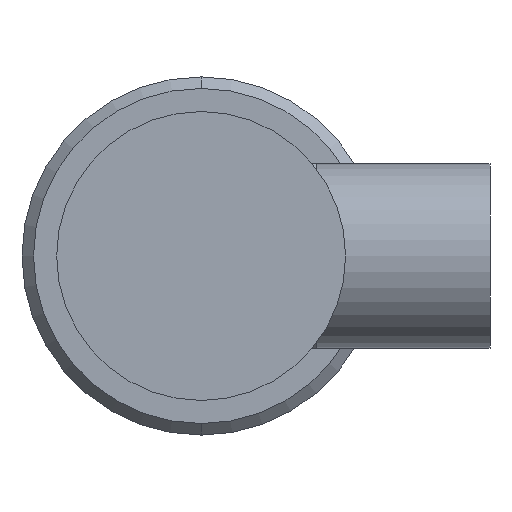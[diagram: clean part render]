
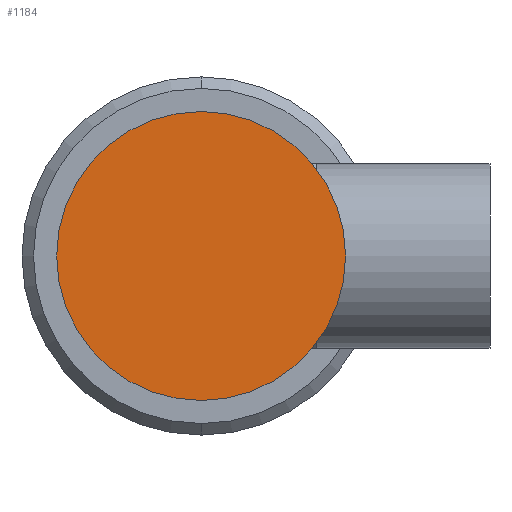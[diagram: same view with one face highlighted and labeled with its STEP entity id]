
A CAD part, left-side view. The second image highlights one B-rep face of the part: STEP entity #1184.
In plain terms, the highlighted planar face has unit normal (-1, 0, 0).
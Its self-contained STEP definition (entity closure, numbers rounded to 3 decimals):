
#97 = DIRECTION ( 'NONE',  ( 0., 0., -1. ) ) ;
#194 = DIRECTION ( 'NONE',  ( -1., 0., 0. ) ) ;
#289 = DIRECTION ( 'NONE',  ( 0., 0., 1. ) ) ;
#333 = AXIS2_PLACEMENT_3D ( 'NONE', #1713, #1572, #289 ) ;
#431 = ORIENTED_EDGE ( 'NONE', *, *, #1410, .T. ) ;
#630 = VERTEX_POINT ( 'NONE', #743 ) ;
#645 = CIRCLE ( 'NONE', #919, 12.5 ) ;
#716 = VERTEX_POINT ( 'NONE', #839 ) ;
#722 = ORIENTED_EDGE ( 'NONE', *, *, #1567, .T. ) ;
#743 = CARTESIAN_POINT ( 'NONE',  ( 0., 0., -12.5 ) ) ;
#757 = DIRECTION ( 'NONE',  ( 0., 0., 1. ) ) ;
#778 = CARTESIAN_POINT ( 'NONE',  ( 0., 0., 0. ) ) ;
#839 = CARTESIAN_POINT ( 'NONE',  ( 0., 0., 12.5 ) ) ;
#919 = AXIS2_PLACEMENT_3D ( 'NONE', #1343, #194, #757 ) ;
#1074 = PLANE ( 'NONE',  #1304 ) ;
#1184 = ADVANCED_FACE ( 'NONE', ( #1377 ), #1074, .F. ) ;
#1304 = AXIS2_PLACEMENT_3D ( 'NONE', #778, #1352, #97 ) ;
#1343 = CARTESIAN_POINT ( 'NONE',  ( 0., 0., 0. ) ) ;
#1352 = DIRECTION ( 'NONE',  ( 1., 0., 0. ) ) ;
#1368 = CIRCLE ( 'NONE', #333, 12.5 ) ;
#1377 = FACE_OUTER_BOUND ( 'NONE', #1753, .T. ) ;
#1410 = EDGE_CURVE ( 'NONE', #630, #716, #1368, .T. ) ;
#1567 = EDGE_CURVE ( 'NONE', #716, #630, #645, .T. ) ;
#1572 = DIRECTION ( 'NONE',  ( -1., 0., 0. ) ) ;
#1713 = CARTESIAN_POINT ( 'NONE',  ( 0., 0., 0. ) ) ;
#1753 = EDGE_LOOP ( 'NONE', ( #722, #431 ) ) ;
